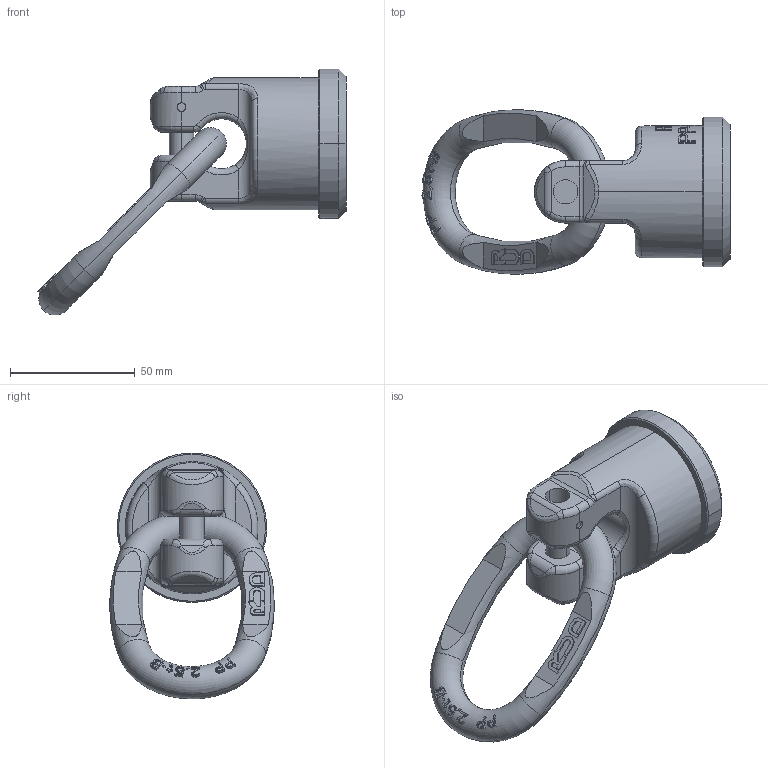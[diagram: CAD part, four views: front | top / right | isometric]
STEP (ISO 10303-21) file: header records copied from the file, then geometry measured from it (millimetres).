
FILE_DESCRIPTION((''),'2;1');
FILE_NAME('001-M31347-P-40_ASM','2018-04-27T',('Anja.Joas'),(''),'PRO/ENGINEER BY PARAMETRIC TECHNOLOGY CORPORATION, 2011490','PRO/ENGINEER BY PARAMETRIC TECHNOLOGY CORPORATION, 2011490','');
FILE_SCHEMA(('CONFIG_CONTROL_DESIGN'));
Length unit declared in the file: millimetre
Products named in the file (4): 001-M31347-P-20; 001-M31347-P-50; 001-M31290-002; 001-M31347-P-40_ASM
Assembly tree (3 placements, depth 2):
  001-M31347-P-40_ASM
    001-M31347-P-20
    001-M31347-P-50
    001-M31290-002
Bounding box: 123.61 x 66.08 x 98.7 mm (x, y, z)
Volume: 156407.8 mm3; surface area: 32470.9 mm2
Topology: 3 solids, 3 shells, 609 faces, 1629 edges, 1060 vertices
Faces by surface type: plane 478, cylinder 64, bspline 30, torus 30, cone 6, extrusion 1
Entity records: 20771 total; most frequent: CARTESIAN_POINT 6358, ORIENTED_EDGE 3258, DIRECTION 2556, EDGE_CURVE 1629, VERTEX_POINT 1060, AXIS2_PLACEMENT_3D 854, VECTOR 848, LINE 847
